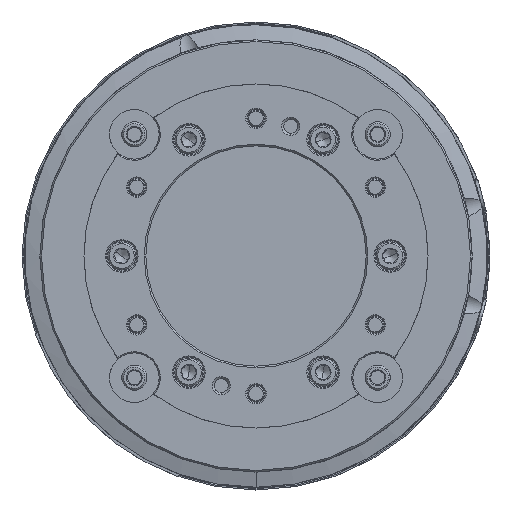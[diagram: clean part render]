
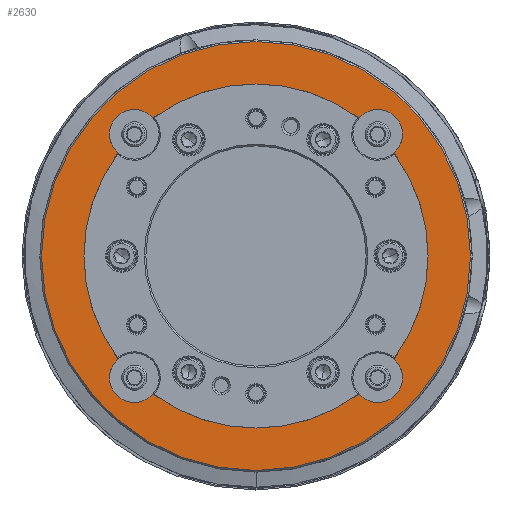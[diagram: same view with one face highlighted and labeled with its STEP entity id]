
A CAD part, left-side view. The second image highlights one B-rep face of the part: STEP entity #2630.
In plain terms, the highlighted planar face has unit normal (-1, 0, 0).
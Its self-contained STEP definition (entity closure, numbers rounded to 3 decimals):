
#2402 = CIRCLE ( 'NONE', #72305, 9. ) ;
#2630 = ADVANCED_FACE ( 'NONE', ( #13742, #69954 ), #68912, .T. ) ;
#4277 = DIRECTION ( 'NONE',  ( 1., 0., 0. ) ) ;
#5698 = CIRCLE ( 'NONE', #27418, 62.5 ) ;
#6247 = EDGE_CURVE ( 'NONE', #78904, #26925, #53409, .T. ) ;
#6739 = EDGE_LOOP ( 'NONE', ( #82411, #38417, #31948, #73382, #56981, #74790, #65724, #26065, #10547, #74818, #92549, #15735, #85832 ) ) ;
#7073 = CARTESIAN_POINT ( 'NONE',  ( -92.5, -44.194, 44.194 ) ) ;
#7189 = CARTESIAN_POINT ( 'NONE',  ( -92.5, 0., 0. ) ) ;
#7657 = EDGE_LOOP ( 'NONE', ( #12562, #90459 ) ) ;
#8893 = CIRCLE ( 'NONE', #83798, 9. ) ;
#9658 = CIRCLE ( 'NONE', #67884, 9. ) ;
#9938 = CARTESIAN_POINT ( 'NONE',  ( -92.5, 0., -62.5 ) ) ;
#9972 = DIRECTION ( 'NONE',  ( 1., 0., 0. ) ) ;
#10547 = ORIENTED_EDGE ( 'NONE', *, *, #67768, .F. ) ;
#10942 = VERTEX_POINT ( 'NONE', #28620 ) ;
#11531 = CARTESIAN_POINT ( 'NONE',  ( -92.5, 44.194, -53.194 ) ) ;
#12031 = VERTEX_POINT ( 'NONE', #83496 ) ;
#12562 = ORIENTED_EDGE ( 'NONE', *, *, #94929, .F. ) ;
#12939 = DIRECTION ( 'NONE',  ( -1., 0., 0. ) ) ;
#13584 = VERTEX_POINT ( 'NONE', #30240 ) ;
#13742 = FACE_BOUND ( 'NONE', #6739, .T. ) ;
#14545 = CIRCLE ( 'NONE', #61063, 62.5 ) ;
#14842 = CIRCLE ( 'NONE', #28166, 77.9 ) ;
#14927 = DIRECTION ( 'NONE',  ( 0., 0., 1. ) ) ;
#15415 = EDGE_CURVE ( 'NONE', #49014, #99408, #18291, .T. ) ;
#15735 = ORIENTED_EDGE ( 'NONE', *, *, #81085, .T. ) ;
#15806 = CARTESIAN_POINT ( 'NONE',  ( -92.5, 37.389, 50.083 ) ) ;
#16988 = CARTESIAN_POINT ( 'NONE',  ( -92.5, -50.083, 37.389 ) ) ;
#17008 = CARTESIAN_POINT ( 'NONE',  ( -92.5, 0., 77.9 ) ) ;
#17269 = DIRECTION ( 'NONE',  ( 0., 0., -1. ) ) ;
#17362 = DIRECTION ( 'NONE',  ( 0., 0., -1. ) ) ;
#17917 = DIRECTION ( 'NONE',  ( 0., 0., 1. ) ) ;
#18291 = CIRCLE ( 'NONE', #71408, 9. ) ;
#19738 = CIRCLE ( 'NONE', #42984, 62.5 ) ;
#19816 = DIRECTION ( 'NONE',  ( 0., 0., -1. ) ) ;
#20816 = CARTESIAN_POINT ( 'NONE',  ( -92.5, 0., 0. ) ) ;
#21577 = CARTESIAN_POINT ( 'NONE',  ( -92.5, 62.5, 0. ) ) ;
#22901 = DIRECTION ( 'NONE',  ( 0., 0., -1. ) ) ;
#22916 = EDGE_CURVE ( 'NONE', #50601, #49014, #32171, .T. ) ;
#23448 = CIRCLE ( 'NONE', #48322, 62.5 ) ;
#24523 = EDGE_CURVE ( 'NONE', #10942, #99408, #5698, .T. ) ;
#25669 = DIRECTION ( 'NONE',  ( 0., 0., 1. ) ) ;
#26065 = ORIENTED_EDGE ( 'NONE', *, *, #58254, .T. ) ;
#26306 = AXIS2_PLACEMENT_3D ( 'NONE', #7073, #52604, #38892 ) ;
#26925 = VERTEX_POINT ( 'NONE', #40200 ) ;
#27196 = DIRECTION ( 'NONE',  ( -1., 0., 0. ) ) ;
#27418 = AXIS2_PLACEMENT_3D ( 'NONE', #7189, #32222, #22901 ) ;
#28166 = AXIS2_PLACEMENT_3D ( 'NONE', #90116, #43718, #44755 ) ;
#28511 = VERTEX_POINT ( 'NONE', #83880 ) ;
#28620 = CARTESIAN_POINT ( 'NONE',  ( -92.5, 50.083, -37.389 ) ) ;
#29226 = CARTESIAN_POINT ( 'NONE',  ( -92.5, -44.194, -44.194 ) ) ;
#30240 = CARTESIAN_POINT ( 'NONE',  ( -92.5, -37.389, 50.083 ) ) ;
#30550 = DIRECTION ( 'NONE',  ( -1., 0., 0. ) ) ;
#31948 = ORIENTED_EDGE ( 'NONE', *, *, #15415, .F. ) ;
#32171 = CIRCLE ( 'NONE', #90393, 9. ) ;
#32222 = DIRECTION ( 'NONE',  ( 1., 0., 0. ) ) ;
#34260 = CARTESIAN_POINT ( 'NONE',  ( -92.5, 50.083, 37.389 ) ) ;
#34833 = VERTEX_POINT ( 'NONE', #16988 ) ;
#38417 = ORIENTED_EDGE ( 'NONE', *, *, #24523, .T. ) ;
#38892 = DIRECTION ( 'NONE',  ( 0., 0., 1. ) ) ;
#39654 = AXIS2_PLACEMENT_3D ( 'NONE', #80578, #48307, #73787 ) ;
#40041 = EDGE_CURVE ( 'NONE', #60981, #28511, #14842, .T. ) ;
#40200 = CARTESIAN_POINT ( 'NONE',  ( -92.5, 37.389, -50.083 ) ) ;
#41546 = DIRECTION ( 'NONE',  ( 0., 0., 1. ) ) ;
#41800 = AXIS2_PLACEMENT_3D ( 'NONE', #48735, #94076, #80496 ) ;
#42984 = AXIS2_PLACEMENT_3D ( 'NONE', #20816, #100408, #19816 ) ;
#43162 = AXIS2_PLACEMENT_3D ( 'NONE', #100073, #4277, #83478 ) ;
#43718 = DIRECTION ( 'NONE',  ( 1., 0., 0. ) ) ;
#44755 = DIRECTION ( 'NONE',  ( 0., 0., -1. ) ) ;
#45121 = CIRCLE ( 'NONE', #41800, 77.9 ) ;
#48069 = VERTEX_POINT ( 'NONE', #60279 ) ;
#48124 = CARTESIAN_POINT ( 'NONE',  ( -92.5, 0., 0. ) ) ;
#48307 = DIRECTION ( 'NONE',  ( -1., 0., 0. ) ) ;
#48322 = AXIS2_PLACEMENT_3D ( 'NONE', #88632, #9972, #17269 ) ;
#48735 = CARTESIAN_POINT ( 'NONE',  ( -92.5, 0., 0. ) ) ;
#49014 = VERTEX_POINT ( 'NONE', #91760 ) ;
#49348 = DIRECTION ( 'NONE',  ( -1., 0., 0. ) ) ;
#50601 = VERTEX_POINT ( 'NONE', #15806 ) ;
#52604 = DIRECTION ( 'NONE',  ( -1., 0., 0. ) ) ;
#52785 = VERTEX_POINT ( 'NONE', #56727 ) ;
#53319 = DIRECTION ( 'NONE',  ( 0., 0., 1. ) ) ;
#53409 = CIRCLE ( 'NONE', #99976, 9. ) ;
#56727 = CARTESIAN_POINT ( 'NONE',  ( -92.5, -44.194, 53.194 ) ) ;
#56981 = ORIENTED_EDGE ( 'NONE', *, *, #79297, .T. ) ;
#58254 = EDGE_CURVE ( 'NONE', #34833, #12031, #19738, .T. ) ;
#58945 = DIRECTION ( 'NONE',  ( 0., 0., 1. ) ) ;
#60279 = CARTESIAN_POINT ( 'NONE',  ( -92.5, -44.194, -53.194 ) ) ;
#60981 = VERTEX_POINT ( 'NONE', #17008 ) ;
#61063 = AXIS2_PLACEMENT_3D ( 'NONE', #48124, #94989, #17362 ) ;
#64157 = AXIS2_PLACEMENT_3D ( 'NONE', #21577, #100651, #53319 ) ;
#64770 = CIRCLE ( 'NONE', #43162, 62.5 ) ;
#65724 = ORIENTED_EDGE ( 'NONE', *, *, #83699, .F. ) ;
#66338 = CARTESIAN_POINT ( 'NONE',  ( -92.5, 44.194, 44.194 ) ) ;
#67768 = EDGE_CURVE ( 'NONE', #48069, #12031, #2402, .T. ) ;
#67884 = AXIS2_PLACEMENT_3D ( 'NONE', #29226, #27196, #58945 ) ;
#68196 = CARTESIAN_POINT ( 'NONE',  ( -92.5, -44.194, -44.194 ) ) ;
#68912 = PLANE ( 'NONE',  #64157 ) ;
#69954 = FACE_OUTER_BOUND ( 'NONE', #7657, .T. ) ;
#71408 = AXIS2_PLACEMENT_3D ( 'NONE', #66338, #91321, #17917 ) ;
#72305 = AXIS2_PLACEMENT_3D ( 'NONE', #68196, #30550, #14927 ) ;
#73152 = EDGE_CURVE ( 'NONE', #10942, #78904, #8893, .T. ) ;
#73382 = ORIENTED_EDGE ( 'NONE', *, *, #22916, .F. ) ;
#73787 = DIRECTION ( 'NONE',  ( 0., 0., 1. ) ) ;
#74790 = ORIENTED_EDGE ( 'NONE', *, *, #92151, .F. ) ;
#74818 = ORIENTED_EDGE ( 'NONE', *, *, #91637, .F. ) ;
#78904 = VERTEX_POINT ( 'NONE', #11531 ) ;
#79297 = EDGE_CURVE ( 'NONE', #50601, #13584, #64770, .T. ) ;
#79487 = CIRCLE ( 'NONE', #26306, 9. ) ;
#80496 = DIRECTION ( 'NONE',  ( 0., 0., -1. ) ) ;
#80578 = CARTESIAN_POINT ( 'NONE',  ( -92.5, -44.194, 44.194 ) ) ;
#81085 = EDGE_CURVE ( 'NONE', #89231, #26925, #14545, .T. ) ;
#81756 = CARTESIAN_POINT ( 'NONE',  ( -92.5, -37.389, -50.083 ) ) ;
#82411 = ORIENTED_EDGE ( 'NONE', *, *, #73152, .F. ) ;
#82768 = DIRECTION ( 'NONE',  ( 0., 0., 1. ) ) ;
#83478 = DIRECTION ( 'NONE',  ( 0., 0., -1. ) ) ;
#83496 = CARTESIAN_POINT ( 'NONE',  ( -92.5, -50.083, -37.389 ) ) ;
#83699 = EDGE_CURVE ( 'NONE', #34833, #52785, #79487, .T. ) ;
#83798 = AXIS2_PLACEMENT_3D ( 'NONE', #99860, #12939, #82768 ) ;
#83880 = CARTESIAN_POINT ( 'NONE',  ( -92.5, 0., -77.9 ) ) ;
#84549 = CIRCLE ( 'NONE', #39654, 9. ) ;
#84757 = VERTEX_POINT ( 'NONE', #81756 ) ;
#85832 = ORIENTED_EDGE ( 'NONE', *, *, #6247, .F. ) ;
#88632 = CARTESIAN_POINT ( 'NONE',  ( -92.5, 0., 0. ) ) ;
#88937 = CARTESIAN_POINT ( 'NONE',  ( -92.5, 44.194, -44.194 ) ) ;
#89231 = VERTEX_POINT ( 'NONE', #9938 ) ;
#90116 = CARTESIAN_POINT ( 'NONE',  ( -92.5, 0., 0. ) ) ;
#90393 = AXIS2_PLACEMENT_3D ( 'NONE', #98021, #91254, #25669 ) ;
#90459 = ORIENTED_EDGE ( 'NONE', *, *, #40041, .F. ) ;
#91254 = DIRECTION ( 'NONE',  ( -1., 0., 0. ) ) ;
#91321 = DIRECTION ( 'NONE',  ( -1., 0., 0. ) ) ;
#91637 = EDGE_CURVE ( 'NONE', #84757, #48069, #9658, .T. ) ;
#91760 = CARTESIAN_POINT ( 'NONE',  ( -92.5, 44.194, 53.194 ) ) ;
#92151 = EDGE_CURVE ( 'NONE', #52785, #13584, #84549, .T. ) ;
#92549 = ORIENTED_EDGE ( 'NONE', *, *, #94510, .T. ) ;
#94076 = DIRECTION ( 'NONE',  ( 1., 0., 0. ) ) ;
#94510 = EDGE_CURVE ( 'NONE', #84757, #89231, #23448, .T. ) ;
#94929 = EDGE_CURVE ( 'NONE', #28511, #60981, #45121, .T. ) ;
#94989 = DIRECTION ( 'NONE',  ( 1., 0., 0. ) ) ;
#98021 = CARTESIAN_POINT ( 'NONE',  ( -92.5, 44.194, 44.194 ) ) ;
#99408 = VERTEX_POINT ( 'NONE', #34260 ) ;
#99860 = CARTESIAN_POINT ( 'NONE',  ( -92.5, 44.194, -44.194 ) ) ;
#99976 = AXIS2_PLACEMENT_3D ( 'NONE', #88937, #49348, #41546 ) ;
#100073 = CARTESIAN_POINT ( 'NONE',  ( -92.5, 0., 0. ) ) ;
#100408 = DIRECTION ( 'NONE',  ( 1., 0., 0. ) ) ;
#100651 = DIRECTION ( 'NONE',  ( -1., 0., 0. ) ) ;
